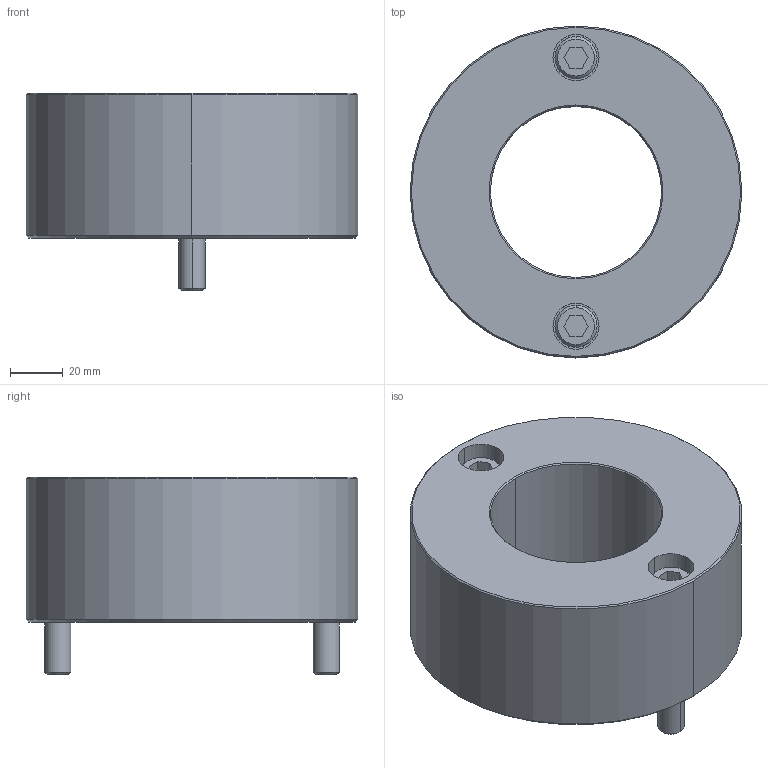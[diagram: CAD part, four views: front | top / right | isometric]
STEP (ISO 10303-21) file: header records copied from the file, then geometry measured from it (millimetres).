
FILE_DESCRIPTION((''),'2;1');
FILE_NAME('','2010-08-30T17:30:25+09:00',('misumi'),(''),'M/STEP i/f 1R2-14','CADmeister v5.1','');
FILE_SCHEMA(('AUTOMOTIVE_DESIGN'));
Length unit declared in the file: millimetre
Products named in the file (1): KEB60-55-N
Bounding box: 126 x 126 x 75 mm (x, y, z)
Volume: 500907.8 mm3; surface area: 60566 mm2
Topology: 3 solids, 3 shells, 60 faces, 128 edges, 80 vertices
Faces by surface type: plane 24, cylinder 20, cone 16
Entity records: 1742 total; most frequent: DIRECTION 306, CARTESIAN_POINT 269, ORIENTED_EDGE 256, EDGE_CURVE 128, AXIS2_PLACEMENT_3D 117, VERTEX_POINT 80, LINE 72, VECTOR 72
